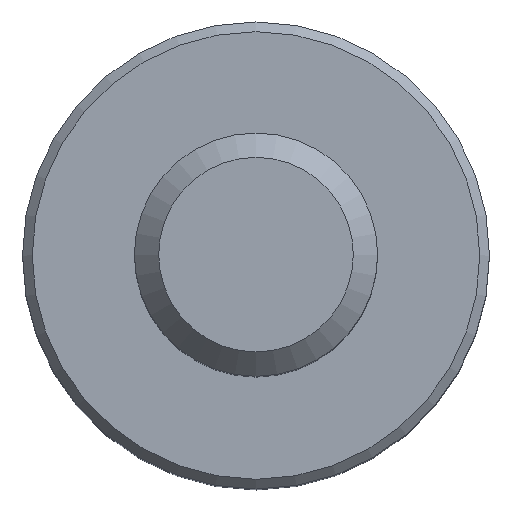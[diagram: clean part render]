
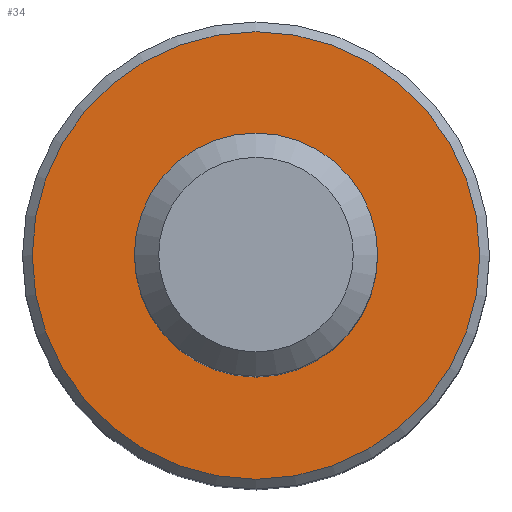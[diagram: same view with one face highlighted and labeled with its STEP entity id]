
A CAD part, top view. The second image highlights one B-rep face of the part: STEP entity #34.
In plain terms, the highlighted planar face has unit normal (0, 0, 1).
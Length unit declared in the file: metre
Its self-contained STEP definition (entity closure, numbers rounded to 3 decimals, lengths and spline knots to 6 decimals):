
#34 = ADVANCED_FACE( '', ( #69, #70 ), #71, .F. );
#69 = FACE_OUTER_BOUND( '', #106, .T. );
#70 = FACE_BOUND( '', #107, .T. );
#71 = PLANE( '', #108 );
#106 = EDGE_LOOP( '', ( #139 ) );
#107 = EDGE_LOOP( '', ( #140 ) );
#108 = AXIS2_PLACEMENT_3D( '', #141, #142, #143 );
#139 = ORIENTED_EDGE( '', *, *, #182, .T. );
#140 = ORIENTED_EDGE( '', *, *, #183, .T. );
#141 = CARTESIAN_POINT( '', ( 0., 0., 0.006 ) );
#142 = DIRECTION( '', ( 0., 0., -1. ) );
#143 = DIRECTION( '', ( -1., 0., 0. ) );
#182 = EDGE_CURVE( '', #199, #199, #200, .F. );
#183 = EDGE_CURVE( '', #201, #201, #202, .T. );
#199 = VERTEX_POINT( '', #221 );
#200 = CIRCLE( '', #222, 0.0023 );
#201 = VERTEX_POINT( '', #223 );
#202 = CIRCLE( '', #224, 0.00125 );
#221 = CARTESIAN_POINT( '', ( -0.0023, 0., 0.006 ) );
#222 = AXIS2_PLACEMENT_3D( '', #243, #244, #245 );
#223 = CARTESIAN_POINT( '', ( 0.00125, 0., 0.006 ) );
#224 = AXIS2_PLACEMENT_3D( '', #246, #247, #248 );
#243 = CARTESIAN_POINT( '', ( 0., 0., 0.006 ) );
#244 = DIRECTION( '', ( 0., 0., -1. ) );
#245 = DIRECTION( '', ( -1., 0., 0. ) );
#246 = CARTESIAN_POINT( '', ( 0., 0., 0.006 ) );
#247 = DIRECTION( '', ( 0., 0., -1. ) );
#248 = DIRECTION( '', ( 1., 0., 0. ) );
